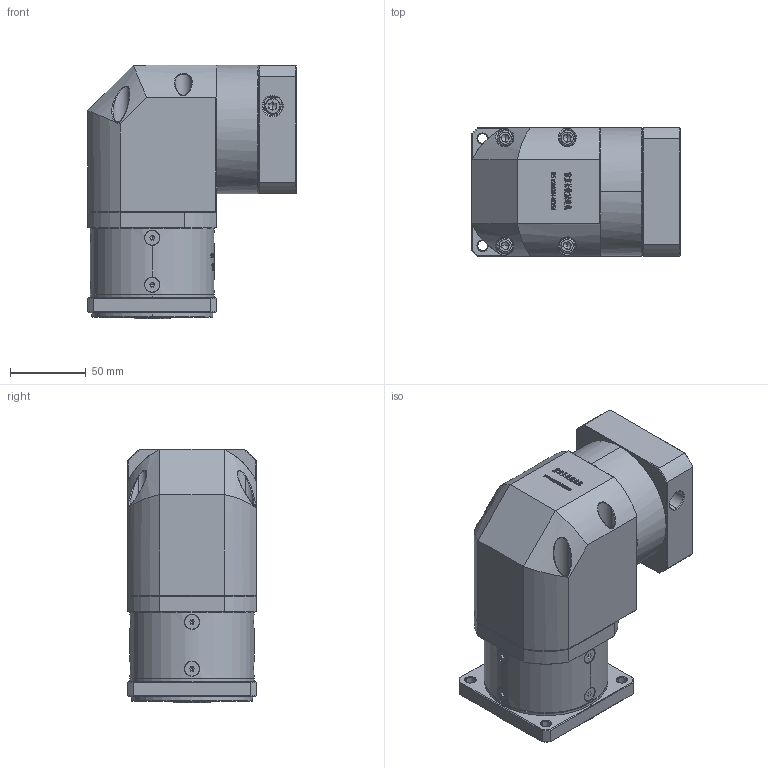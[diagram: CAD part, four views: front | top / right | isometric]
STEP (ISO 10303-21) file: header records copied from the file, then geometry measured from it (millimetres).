
FILE_DESCRIPTION (( 'STEP AP214' ), '1' );
FILE_NAME ('ZF80-K15-L1-14-60-75-M6.step', '2022-05-08T12:02:32', ( '' ), ( 'Microsoft' ), 'SwSTEP 2.0', 'SolidWorks 2016', '' );
FILE_SCHEMA (( 'AUTOMOTIVE_DESIGN' ));
Length unit declared in the file: millimetre
Products named in the file (1): ZF80-K15-L1-14-60-75-M6
Bounding box: 137.6 x 85 x 167.5 mm (x, y, z)
Volume: 1243477 mm3; surface area: 133490.9 mm2
Topology: 13 solids, 13 shells, 3021 faces, 7940 edges, 5065 vertices
Faces by surface type: plane 1631, bspline 614, cylinder 415, cone 347, torus 14
Entity records: 159152 total; most frequent: CARTESIAN_POINT 56932, ORIENTED_EDGE 15792, DIRECTION 11909, EDGE_CURVE 7896, VERTEX_POINT 5065, VECTOR 4975, LINE 4975, AXIS2_PLACEMENT_3D 3467
